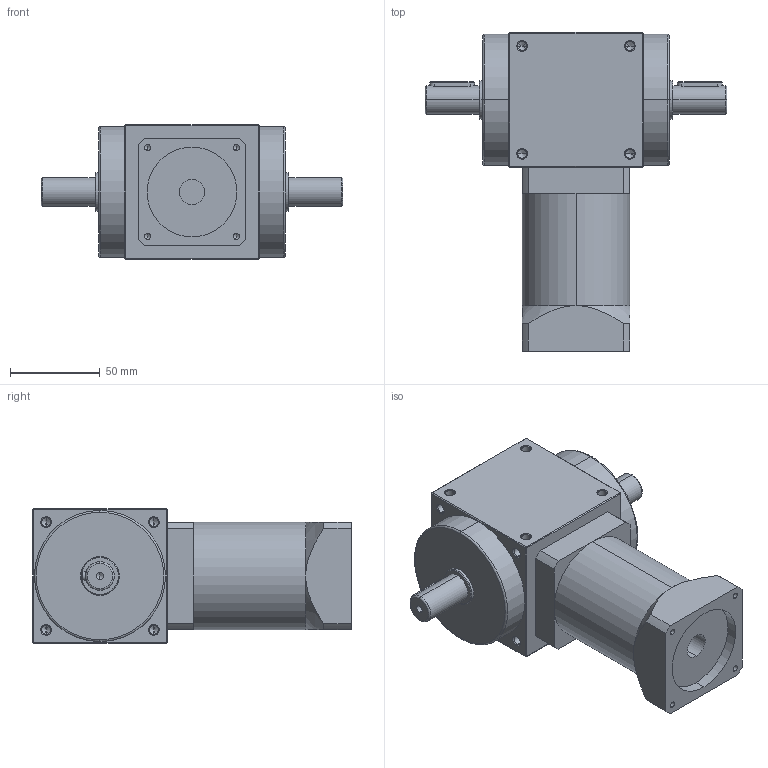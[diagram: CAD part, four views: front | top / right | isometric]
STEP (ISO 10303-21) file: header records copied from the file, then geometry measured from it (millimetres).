
FILE_DESCRIPTION (( 'STEP AP214' ), '1' );
FILE_NAME ('AT075-FL-L2--14-50-70-M4.STEP', '2019-05-15T00:57:41', ( 'User' ), ( 'Far123' ), 'SwSTEP 2.0', 'SolidWorks 2015', '' );
FILE_SCHEMA (( 'AUTOMOTIVE_DESIGN' ));
Length unit declared in the file: millimetre
Products named in the file (1): AT075-FL-L2--14-50-70-M4
Bounding box: 168 x 177.5 x 75 mm (x, y, z)
Volume: 852451.5 mm3; surface area: 71581.9 mm2
Topology: 1 solids, 1 shells, 291 faces, 718 edges, 390 vertices
Faces by surface type: cylinder 122, cone 104, plane 57, torus 8
Entity records: 9346 total; most frequent: CARTESIAN_POINT 1928, DIRECTION 1354, ORIENTED_EDGE 1332, EDGE_CURVE 666, AXIS2_PLACEMENT_3D 520, VERTEX_POINT 390, EDGE_LOOP 328, VECTOR 314
